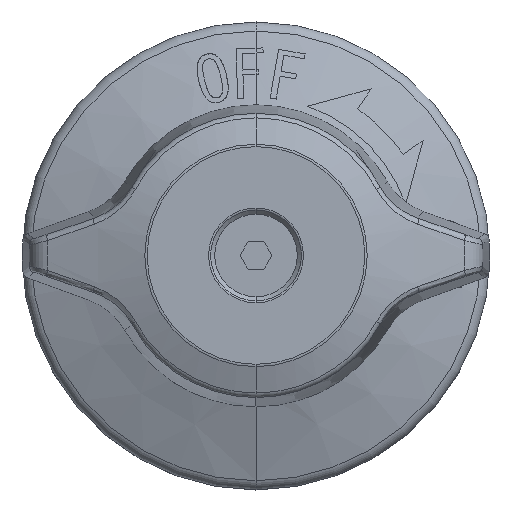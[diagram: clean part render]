
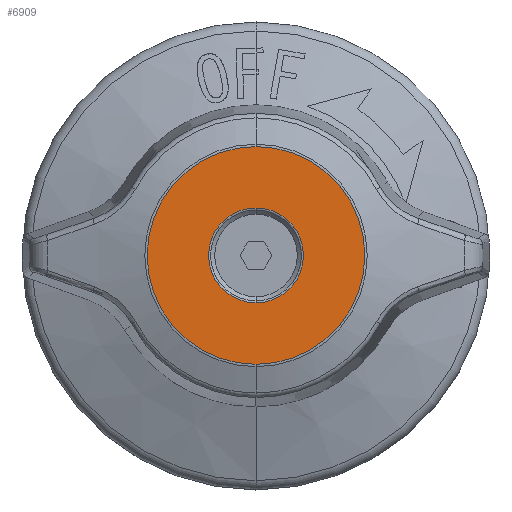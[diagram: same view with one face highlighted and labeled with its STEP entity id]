
A CAD part, top view. The second image highlights one B-rep face of the part: STEP entity #6909.
In plain terms, the highlighted planar face has unit normal (0, 0, 1).
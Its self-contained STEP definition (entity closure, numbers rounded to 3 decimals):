
#68 = CARTESIAN_POINT ( 'NONE',  ( 0., 0., 27.348 ) ) ;
#194 = CARTESIAN_POINT ( 'NONE',  ( 0., -3.443, 27.348 ) ) ;
#389 = VERTEX_POINT ( 'NONE', #8891 ) ;
#502 = DIRECTION ( 'NONE',  ( 0., 0., -1. ) ) ;
#697 = AXIS2_PLACEMENT_3D ( 'NONE', #1372, #8069, #5865 ) ;
#1230 = ORIENTED_EDGE ( 'NONE', *, *, #6152, .T. ) ;
#1372 = CARTESIAN_POINT ( 'NONE',  ( 0., 0., 27.348 ) ) ;
#1451 = ORIENTED_EDGE ( 'NONE', *, *, #4460, .T. ) ;
#1632 = AXIS2_PLACEMENT_3D ( 'NONE', #68, #6906, #2364 ) ;
#2142 = VERTEX_POINT ( 'NONE', #7535 ) ;
#2364 = DIRECTION ( 'NONE',  ( 0., 1., 0. ) ) ;
#2446 = AXIS2_PLACEMENT_3D ( 'NONE', #5995, #9748, #3750 ) ;
#2809 = CARTESIAN_POINT ( 'NONE',  ( 0., 0., 27.348 ) ) ;
#3494 = EDGE_CURVE ( 'NONE', #389, #3669, #6414, .T. ) ;
#3669 = VERTEX_POINT ( 'NONE', #194 ) ;
#3750 = DIRECTION ( 'NONE',  ( 0., 1., 0. ) ) ;
#4012 = ORIENTED_EDGE ( 'NONE', *, *, #5859, .T. ) ;
#4124 = FACE_OUTER_BOUND ( 'NONE', #4383, .T. ) ;
#4350 = AXIS2_PLACEMENT_3D ( 'NONE', #2809, #502, #6804 ) ;
#4383 = EDGE_LOOP ( 'NONE', ( #1230, #4012 ) ) ;
#4460 = EDGE_CURVE ( 'NONE', #3669, #389, #8811, .T. ) ;
#4873 = FACE_BOUND ( 'NONE', #8967, .T. ) ;
#5328 = AXIS2_PLACEMENT_3D ( 'NONE', #5430, #6231, #8531 ) ;
#5363 = VERTEX_POINT ( 'NONE', #8669 ) ;
#5430 = CARTESIAN_POINT ( 'NONE',  ( 0., 0., 27.348 ) ) ;
#5859 = EDGE_CURVE ( 'NONE', #5363, #2142, #7411, .T. ) ;
#5865 = DIRECTION ( 'NONE',  ( 0., 1., 0. ) ) ;
#5995 = CARTESIAN_POINT ( 'NONE',  ( 0., 0., 27.348 ) ) ;
#6152 = EDGE_CURVE ( 'NONE', #2142, #5363, #6920, .T. ) ;
#6231 = DIRECTION ( 'NONE',  ( 0., 0., -1. ) ) ;
#6414 = CIRCLE ( 'NONE', #4350, 3.443 ) ;
#6804 = DIRECTION ( 'NONE',  ( 0., 1., 0. ) ) ;
#6906 = DIRECTION ( 'NONE',  ( 0., 0., -1. ) ) ;
#6909 = ADVANCED_FACE ( 'NONE', ( #4873, #4124 ), #7169, .F. ) ;
#6920 = CIRCLE ( 'NONE', #2446, 7.912 ) ;
#7169 = PLANE ( 'NONE',  #5328 ) ;
#7411 = CIRCLE ( 'NONE', #697, 7.912 ) ;
#7421 = ORIENTED_EDGE ( 'NONE', *, *, #3494, .T. ) ;
#7535 = CARTESIAN_POINT ( 'NONE',  ( 0., 7.912, 27.348 ) ) ;
#8069 = DIRECTION ( 'NONE',  ( 0., 0., 1. ) ) ;
#8531 = DIRECTION ( 'NONE',  ( 0., 1., 0. ) ) ;
#8669 = CARTESIAN_POINT ( 'NONE',  ( 0., -7.912, 27.348 ) ) ;
#8811 = CIRCLE ( 'NONE', #1632, 3.443 ) ;
#8891 = CARTESIAN_POINT ( 'NONE',  ( 0., 3.443, 27.348 ) ) ;
#8967 = EDGE_LOOP ( 'NONE', ( #7421, #1451 ) ) ;
#9748 = DIRECTION ( 'NONE',  ( 0., 0., 1. ) ) ;
